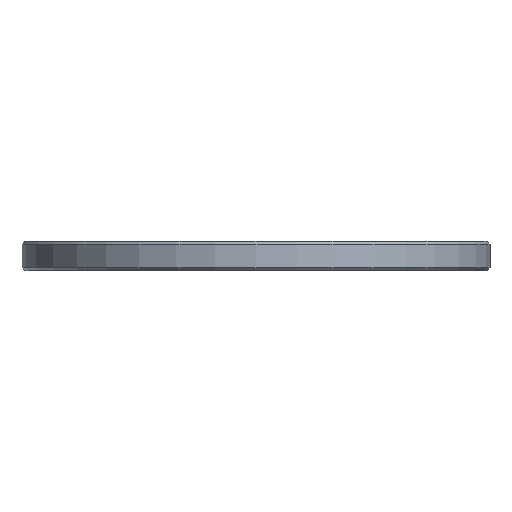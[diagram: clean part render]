
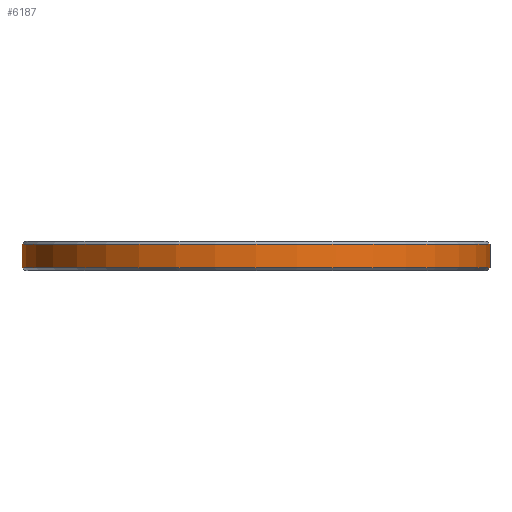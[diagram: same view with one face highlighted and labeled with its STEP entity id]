
A CAD part, front view. The second image highlights one B-rep face of the part: STEP entity #6187.
In plain terms, the highlighted cylindrical face has radius 25 mm (diameter 50 mm), a full revolution.
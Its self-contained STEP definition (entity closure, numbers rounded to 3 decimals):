
#62=CYLINDRICAL_SURFACE('',#6571,25.);
#642=FACE_OUTER_BOUND('',#993,.T.);
#993=EDGE_LOOP('',(#5767,#5768,#5769,#5770));
#1064=CIRCLE('',#6570,25.);
#1065=CIRCLE('',#6572,25.);
#1860=LINE('',#9856,#2663);
#2663=VECTOR('',#8089,25.);
#3230=VERTEX_POINT('',#9850);
#3231=VERTEX_POINT('',#9854);
#4077=EDGE_CURVE('',#3230,#3230,#1064,.T.);
#4079=EDGE_CURVE('',#3231,#3231,#1065,.T.);
#4080=EDGE_CURVE('',#3231,#3230,#1860,.T.);
#5767=ORIENTED_EDGE('',*,*,#4079,.F.);
#5768=ORIENTED_EDGE('',*,*,#4080,.T.);
#5769=ORIENTED_EDGE('',*,*,#4077,.F.);
#5770=ORIENTED_EDGE('',*,*,#4080,.F.);
#6187=ADVANCED_FACE('',(#642),#62,.T.);
#6570=AXIS2_PLACEMENT_3D('',#9851,#8082,#8083);
#6571=AXIS2_PLACEMENT_3D('',#9853,#8085,#8086);
#6572=AXIS2_PLACEMENT_3D('',#9855,#8087,#8088);
#8082=DIRECTION('center_axis',(0.,0.,-1.));
#8083=DIRECTION('ref_axis',(1.,0.,0.));
#8085=DIRECTION('center_axis',(0.,0.,1.));
#8086=DIRECTION('ref_axis',(1.,0.,0.));
#8087=DIRECTION('center_axis',(0.,0.,1.));
#8088=DIRECTION('ref_axis',(1.,0.,0.));
#8089=DIRECTION('',(0.,0.,-1.));
#9850=CARTESIAN_POINT('',(-25.,0.,0.3));
#9851=CARTESIAN_POINT('Origin',(0.,0.,0.3));
#9853=CARTESIAN_POINT('Origin',(0.,0.,0.));
#9854=CARTESIAN_POINT('',(-25.,0.,2.825));
#9855=CARTESIAN_POINT('Origin',(0.,0.,2.825));
#9856=CARTESIAN_POINT('',(-25.,0.,0.));
